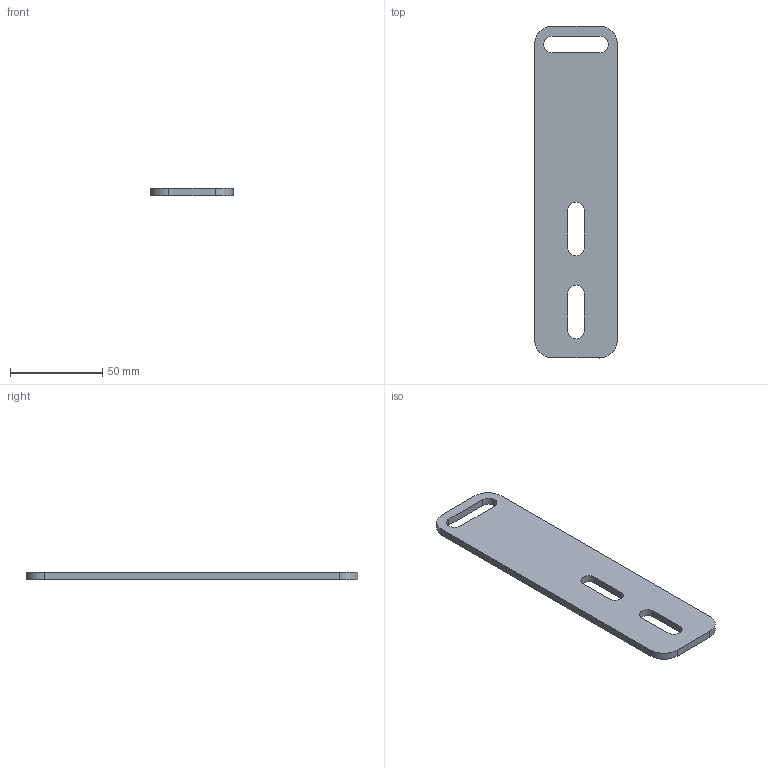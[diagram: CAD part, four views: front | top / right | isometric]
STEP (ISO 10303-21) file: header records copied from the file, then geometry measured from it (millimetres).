
FILE_DESCRIPTION (( 'STEP AP203' ), '1' );
FILE_NAME ('084.106.105.STEP', '2013-01-23T10:14:02', ( 'Alusic' ), ( 'Alusic' ), 'SwSTEP 2.0', 'SolidWorks 2011', '' );
FILE_SCHEMA (( 'CONFIG_CONTROL_DESIGN' ));
Length unit declared in the file: millimetre
Products named in the file (1): 084.106.105
Bounding box: 45 x 180.01 x 4 mm (x, y, z)
Volume: 28918.4 mm3; surface area: 17057.9 mm2
Topology: 1 solids, 1 shells, 23 faces, 63 edges, 42 vertices
Faces by surface type: plane 12, cylinder 11
Entity records: 828 total; most frequent: DIRECTION 133, CARTESIAN_POINT 129, ORIENTED_EDGE 126, EDGE_CURVE 63, AXIS2_PLACEMENT_3D 46, VERTEX_POINT 42, VECTOR 41, LINE 41
